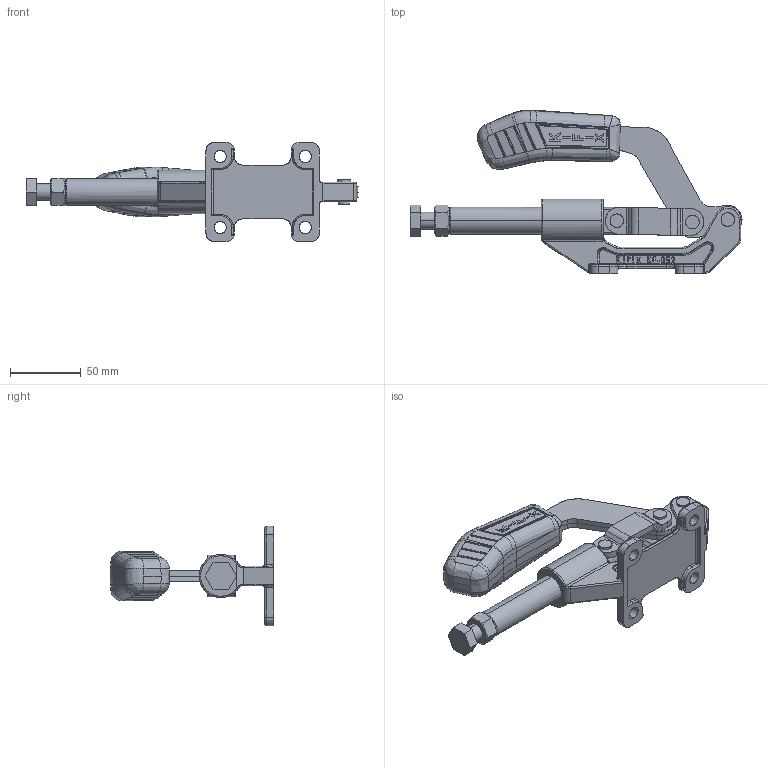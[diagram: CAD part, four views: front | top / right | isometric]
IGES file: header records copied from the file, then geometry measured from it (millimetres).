
Start section: SolidWorks IGES file using analytic representation for surfaces
Global section: file name: G:\Grampos\KF-052\KF-052\KF-052.IGS; native system: SolidWorks 2018; preprocessor: SolidWorks 2018; author: Ricardo.Sandi; date: 181023.162954; units: millimetre
Bounding box: 234.09 x 115.55 x 70 mm (x, y, z)
Surface area: 83555.9 mm2 (no closed solid volume)
Topology: 0 solids, 0 shells, 1199 faces, 12900 edges, 12860 vertices
Faces by surface type: bspline 866, revolution 333
